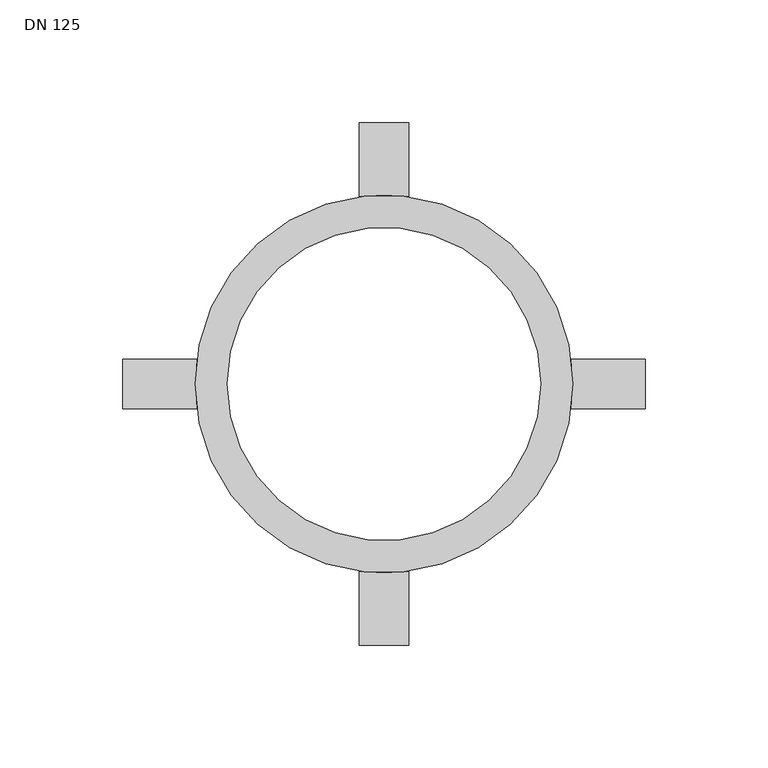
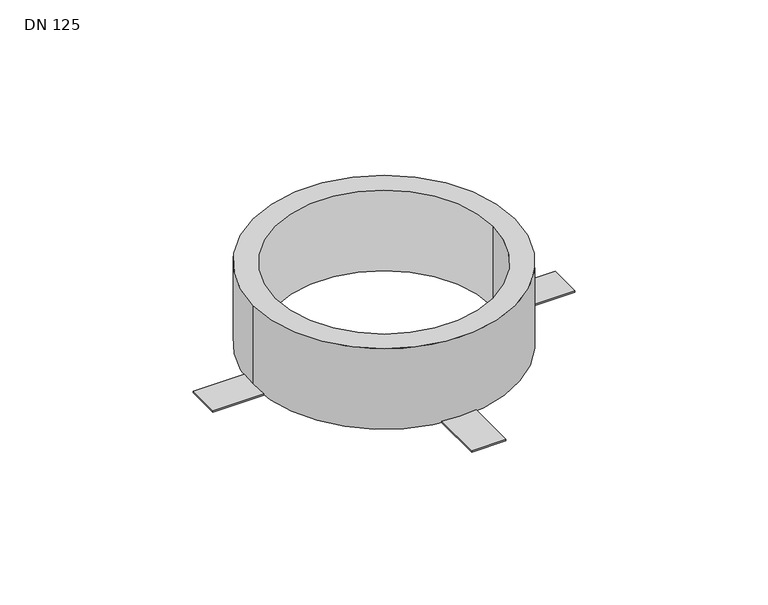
"""IFC4 building model written with IfcOpenShell, lengths in millimetres: proxy geometry, SE_AS+_Fire_Collar_For_Ceilings_Wavin : DN 125."""

from ifc_helpers import new_model, si_unit, point, origin, origin_with_axes, origin_2d, place, context, project, spatial, polyline, circle_curve, trimmed, segment, composite_curve, outline, extrude, source, transform, mapped, element, save


def dn_125_ca2b448a(model_context):
    return source(origin(), model_context, "Body", "SweptSolid", [
        extrude(outline(composite_curve([segment(polyline([(106.5, 10.0), (106.5, -10.0), (76.347888, -10.0)]), True, "CONTINUOUS"), segment(trimmed(circle_curve(origin_2d(), 77.0), [point((76.347888, -10.0))], [point((76.347888, 10.0))], True, "CARTESIAN"), True, "CONTINUOUS"), segment(polyline([(76.347888, 10.0), (106.5, 10.0)]), True, "CONTINUOUS")], self_intersect=False)), origin_with_axes(), (0.0, 0.0, 1.0), 1.0),
        extrude(outline(composite_curve([segment(polyline([(-10.0, 106.5), (10.0, 106.5), (10.0, 76.347888)]), True, "CONTINUOUS"), segment(trimmed(circle_curve(origin_2d(), 77.0), [point((10.0, 76.347888))], [point((-10.0, 76.347888))], True, "CARTESIAN"), True, "CONTINUOUS"), segment(polyline([(-10.0, 76.347888), (-10.0, 106.5)]), True, "CONTINUOUS")], self_intersect=False)), origin_with_axes(), (0.0, 0.0, 1.0), 1.0),
        extrude(outline(composite_curve([segment(polyline([(-106.5, -10.0), (-106.5, 10.0), (-76.347888, 10.0)]), True, "CONTINUOUS"), segment(trimmed(circle_curve(origin_2d(), 77.0), [point((-76.347888, 10.0))], [point((-76.347888, -10.0))], True, "CARTESIAN"), True, "CONTINUOUS"), segment(polyline([(-76.347888, -10.0), (-106.5, -10.0)]), True, "CONTINUOUS")], self_intersect=False)), origin_with_axes(), (0.0, 0.0, 1.0), 1.0),
        extrude(outline(composite_curve([segment(polyline([(10.0, -106.5), (-10.0, -106.5), (-10.0, -76.347888)]), True, "CONTINUOUS"), segment(trimmed(circle_curve(origin_2d(), 77.0), [point((-10.0, -76.347888))], [point((10.0, -76.347888))], True, "CARTESIAN"), True, "CONTINUOUS"), segment(polyline([(10.0, -76.347888), (10.0, -106.5)]), True, "CONTINUOUS")], self_intersect=False)), origin_with_axes(), (0.0, 0.0, 1.0), 1.0),
        extrude(outline(composite_curve([segment(trimmed(circle_curve(origin_2d(), 77.0), [point((-77.0, 0.0))], [point((77.0, 0.0))], False, "CARTESIAN"), True, "CONTINUOUS"), segment(trimmed(circle_curve(origin_2d(), 77.0), [point((77.0, 0.0))], [point((-77.0, 0.0))], False, "CARTESIAN"), True, "CONTINUOUS")], self_intersect=False), holes=[composite_curve([segment(trimmed(circle_curve(origin_2d(), 63.8), [point((-63.8, 0.0))], [point((63.8, 0.0))], True, "CARTESIAN"), True, "CONTINUOUS"), segment(trimmed(circle_curve(origin_2d(), 63.8), [point((63.8, 0.0))], [point((-63.8, 0.0))], True, "CARTESIAN"), True, "CONTINUOUS")], self_intersect=False)]), origin_with_axes(), (0.0, 0.0, 1.0), 50.0),
    ])


if __name__ == "__main__":
    model = new_model("IFC4")
    model_context = context("Model", 3, world=origin())
    ifc_project = project(units=[si_unit("LENGTHUNIT", "METRE", prefix="MILLI")], contexts=[model_context])
    site = spatial("IfcSite", under=ifc_project)
    building = spatial("IfcBuilding", under=site)
    placement = place(None, origin())
    dn_125_shape = dn_125_ca2b448a(model_context)
    element("IfcBuildingElementProxy", 1, Name="SE_AS+_Fire_Collar_For_Ceilings_Wavin : DN 125", ObjectType="SE_AS+_Fire_Collar_For_Ceilings_Wavin : DN 125", at=placement, inside=building, context=model_context, shape_type="MappedRepresentation", body=[
        mapped(dn_125_shape, transform((0.0, 0.0, 0.0), x_axis=(1.0, 0.0, 0.0), y_axis=(0.0, 1.0, 0.0), z_axis=(0.0, 0.0, 1.0))),
    ])
    save(model, "model.ifc")
